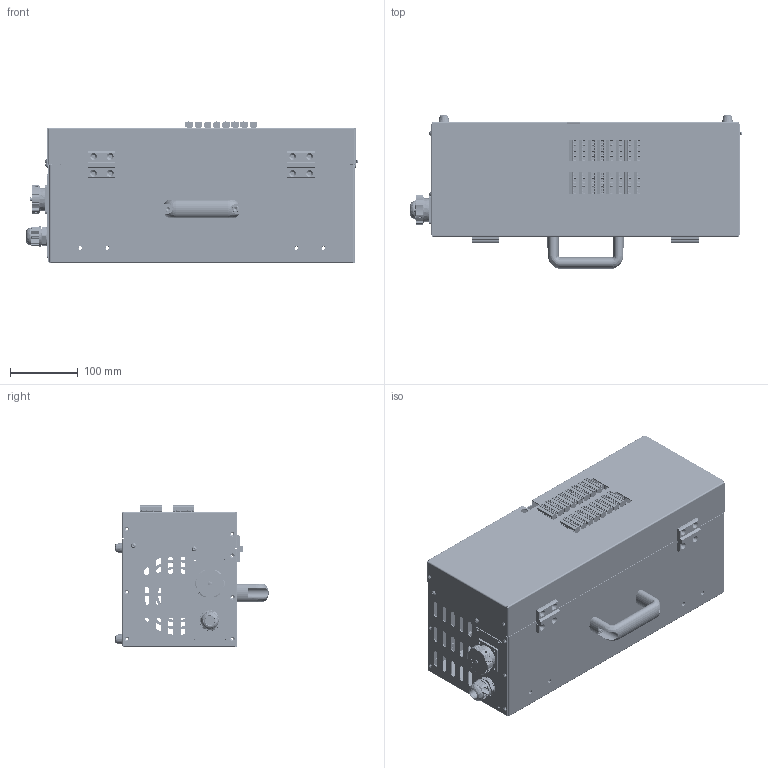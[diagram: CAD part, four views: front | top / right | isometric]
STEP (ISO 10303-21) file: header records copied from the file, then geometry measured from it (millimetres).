
FILE_DESCRIPTION (( 'STEP AP214' ), '1' );
FILE_NAME ('俋倛杅耀_ERB3C4K0MNE-D9.STEP', '2025-09-02T02:42:27', ( '' ), ( '' ), 'SwSTEP 2.0', 'SolidWorks 2020', '' );
FILE_SCHEMA (( 'AUTOMOTIVE_DESIGN' ));
Length unit declared in the file: millimetre
Products named in the file (17): GBT70．1-2000内六角圆柱头螺钉M3×8; XAG61-L100; 囀鞠褒す埴芛蹟隊 GB _T 70.2 - 2015   M4X8; OEM眊极-C-眊极; NHY11-16; CL218-3傲跳-种; 俋諉脣諳耀倰Safe Io-C20; GB_T70.1-2008 M6x16; NA20200197_瑤脣釱-CS620蚳蚚-WY32K8Z; 俋倛杅耀_ERB3C4K0MNE-D9; CL218-3傲跳蝓蟈; OEM眊极-C-藷-D9; NA20200200_跡擘芛-GLS-B-M20-14; NA60401726_OEM眊极-D9-CS620; CL218-3傲跳; NA20600056_ERB1C4K0MNE蟀諉ん假蚾鍼踢
Assembly tree (60 placements, depth 4):
  俋倛杅耀_ERB3C4K0MNE-D9
    NA60401726_OEM眊极-D9-CS620
      OEM眊极-C-眊极
      OEM眊极-C-藷-D9
      XAG61-L100
      NHY11-16  x4
      GBT70．1-2000内六角圆柱头螺钉M3×8  x4
      GB_T70.1-2008 M6x16  x2
      囀鞠褒す埴芛蹟隊 GB _T 70.2 - 2015   M4X8  x3
      CL218-3傲跳蝓蟈
        CL218-3傲跳  x2
        CL218-3傲跳-种
      CL218-3傲跳蝓蟈
        CL218-3傲跳  x2
        CL218-3傲跳-种
    NA20600056_ERB1C4K0MNE蟀諉ん假蚾鍼踢
    NA20200197_瑤脣釱-CS620蚳蚚-WY32K8Z
    NA20200200_跡擘芛-GLS-B-M20-14
    俋諉脣諳耀倰Safe Io-C20  x32
Bounding box: 491.58 x 226.94 x 209.95 mm (x, y, z)
Volume: 777300.9 mm3; surface area: 928649.7 mm2
Topology: 62 solids, 62 shells, 13489 faces, 36241 edges, 23692 vertices
Faces by surface type: plane 7407, cylinder 4370, bspline 882, cone 662, sphere 90, torus 78
Entity records: 157999 total; most frequent: CARTESIAN_POINT 43925, ORIENTED_EDGE 20416, DIRECTION 18311, EDGE_CURVE 10208, AXIS2_PLACEMENT_3D 6633, VERTEX_POINT 6600, VECTOR 5045, LINE 5045
